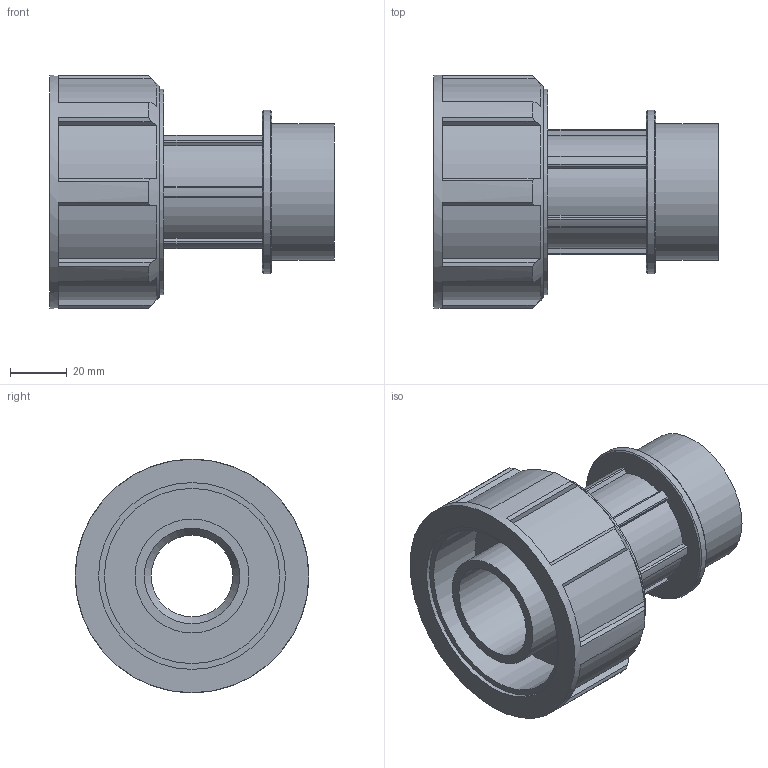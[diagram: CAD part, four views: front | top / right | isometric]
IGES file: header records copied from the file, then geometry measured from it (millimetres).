
Global section: file name: 072500040015_182500040015_0725060400150A.ipt; native system: Autodesk Inventor 2015; preprocessor: unknown; author: KIM; date: 20170608.042148; units: millimetre
Bounding box: 100 x 82 x 82 mm (x, y, z)
Volume: 153749 mm3; surface area: 52554.9 mm2
Topology: 1 solids, 1 shells, 108 faces, 300 edges, 202 vertices
Faces by surface type: plane 74, cylinder 25, revolution 6, cone 3
Full cylindrical faces by diameter (mm): 40 x1, 47.803 x1, 57.364 x1, 72.16 x1, 82 x1
